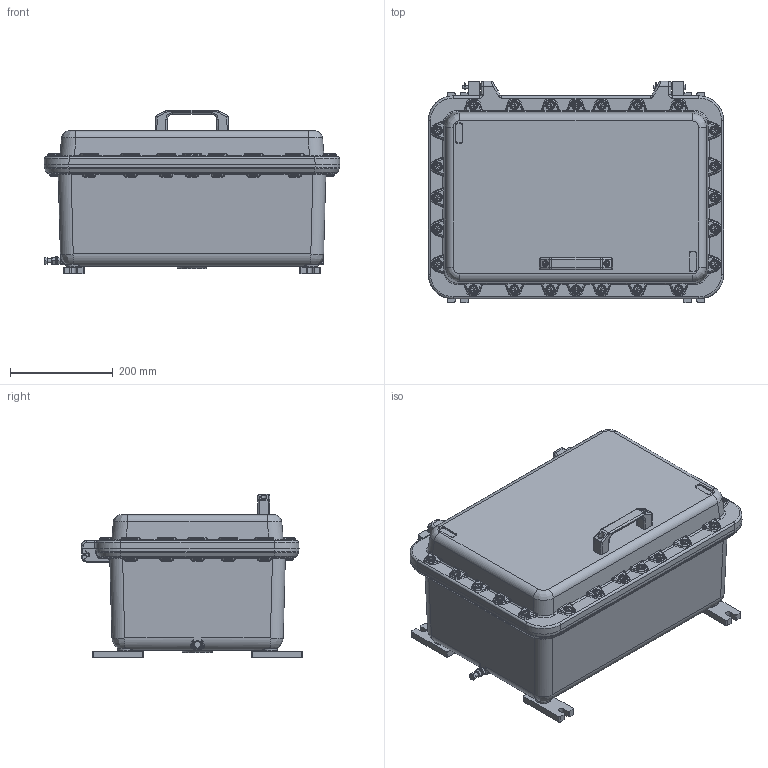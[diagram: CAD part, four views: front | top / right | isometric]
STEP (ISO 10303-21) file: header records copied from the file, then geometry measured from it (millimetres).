
FILE_DESCRIPTION(('STEP AP214'), '1');
FILE_NAME('ﾑﾌﾄ 346400 364 000 _ ﾊﾂﾌﾊ 573926 Exd (ﾄ2, ﾂ07)', '', ('UNSPECIFIED'), ('UNSPECIFIED'), 'ASCON STEP Converter 1.3', 'ASCON Math Kernel', '');
FILE_SCHEMA(('AUTOMOTIVE_DESIGN { 1 0 10303 214 3 1 1}'));
Length unit declared in the file: millimetre
Products named in the file (28): ﾑﾌﾄ 346400 364 000 ﾑﾁ; ﾑﾌﾄ 346400 364 001; ﾑﾌﾄ 346400 364 002; ﾑﾌﾄ 346400 364 004; ﾑﾌﾄ 346400 339 003; ﾑﾌﾄ 346400 364 101
Assembly tree (115 placements, depth 2):
  ﾑﾌﾄ 346400 364 000 ﾑﾁ
    ﾑﾌﾄ 346400 364 001
    ﾑﾌﾄ 346400 364 002
    (unnamed)
    (unnamed)  x2
    (unnamed)  x26
    (unnamed)  x8
    (unnamed)  x2
    ﾑﾌﾄ 346400 364 004  x2
    (unnamed)  x2
    (unnamed)
    (unnamed)  x2
    (unnamed)  x24
    (unnamed)  x24
    ﾑﾌﾄ 346400 339 003  x4
    (unnamed)
    (unnamed)
    (unnamed)
    (unnamed)
    (unnamed)
    (unnamed)
    (unnamed)
    (unnamed)
    ﾑﾌﾄ 346400 364 101
    (unnamed)
    (unnamed)
    (unnamed)
    (unnamed)  x3
Bounding box: 575.05 x 430.55 x 318 mm (x, y, z)
Volume: 15356616.7 mm3; surface area: 2036737.4 mm2
Topology: 115 solids, 115 shells, 3612 faces, 8760 edges, 5470 vertices
Faces by surface type: cylinder 1277, plane 1274, cone 419, bspline 386, torus 256
Full cylindrical faces by diameter (mm): 3 x2, 4.134 x8, 4.2 x8, 5 x11, 5.5 x16, 6 x2, 6.3 x2, 6.4 x3, 6.647 x27, 7 x4, 8 x25, 8.376 x4, 8.5 x2, 9 x52, 9.2 x7, 10 x12, 10.5 x4, 11 x7, 12 x4, 13 x24, 16 x26, 17 x2, 17.5 x24, 18 x4, 20 x4, 58 x1
Entity records: 152738 total; most frequent: CARTESIAN_POINT 61291, DIRECTION 13618, ORIENTED_EDGE 13416, EDGE_CURVE 6708, AXIS2_PLACEMENT_3D 5297, VERTEX_POINT 4249, EDGE_LOOP 3290, LINE 3024
